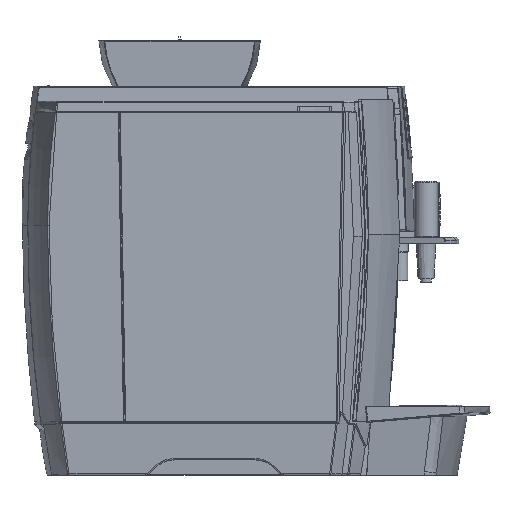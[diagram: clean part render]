
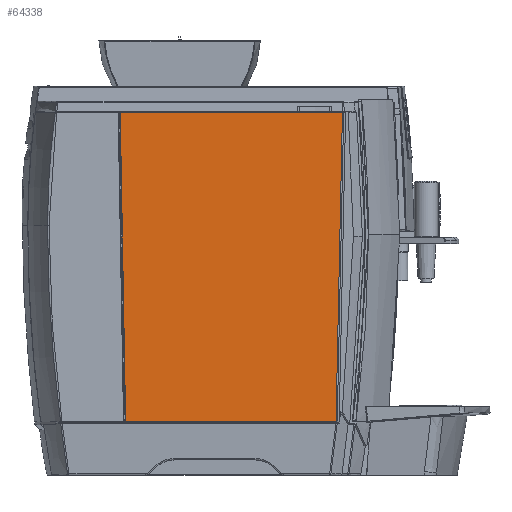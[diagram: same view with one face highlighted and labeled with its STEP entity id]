
A CAD part, left-side view. The second image highlights one B-rep face of the part: STEP entity #64338.
In plain terms, the highlighted planar face has unit normal (-1, 0, 0).
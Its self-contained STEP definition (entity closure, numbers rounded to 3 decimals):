
#66 = AXIS2_PLACEMENT_3D ( 'NONE', #41448, #47955, #8842 ) ;
#2243 = CARTESIAN_POINT ( 'NONE',  ( -155., 214.119, 22.991 ) ) ;
#3497 = CARTESIAN_POINT ( 'NONE',  ( -155., 92.508, 22.5 ) ) ;
#8098 = EDGE_CURVE ( 'NONE', #62985, #77572, #56051, .T. ) ;
#8842 = DIRECTION ( 'NONE',  ( 0., 1., 0. ) ) ;
#8974 = CARTESIAN_POINT ( 'NONE',  ( -155., 213.97, 22.643 ) ) ;
#9244 = VECTOR ( 'NONE', #58902, 1000. ) ;
#10810 = CARTESIAN_POINT ( 'NONE',  ( -155., 219.217, 315. ) ) ;
#13937 = VERTEX_POINT ( 'NONE', #2243 ) ;
#15571 = CARTESIAN_POINT ( 'NONE',  ( -155., 214.065, 22.736 ) ) ;
#15843 = CARTESIAN_POINT ( 'NONE',  ( -155., 214.119, 22.991 ) ) ;
#18109 = CARTESIAN_POINT ( 'NONE',  ( -155., 11.099, 217.567 ) ) ;
#18142 = B_SPLINE_CURVE_WITH_KNOTS ( 'NONE', 3,
 ( #21236, #40961, #73868, #34668, #80450, #41248 ),
 .UNSPECIFIED., .F., .F.,
 ( 4, 2, 4 ),
 ( 0., 0., 0.001 ),
 .UNSPECIFIED. ) ;
#19636 = ORIENTED_EDGE ( 'NONE', *, *, #26976, .T. ) ;
#20089 = EDGE_LOOP ( 'NONE', ( #84854, #19636, #42917, #31822, #37432, #43967, #79658 ) ) ;
#20501 = VERTEX_POINT ( 'NONE', #84857 ) ;
#21236 = CARTESIAN_POINT ( 'NONE',  ( -155., 15.924, 22.5 ) ) ;
#21621 = CARTESIAN_POINT ( 'NONE',  ( -155., 9.068, 315. ) ) ;
#24430 = CARTESIAN_POINT ( 'NONE',  ( -155., 15.161, 22.7 ) ) ;
#25368 = CARTESIAN_POINT ( 'NONE',  ( -155., 265.363, 315. ) ) ;
#26199 = EDGE_CURVE ( 'NONE', #35728, #69226, #39175, .T. ) ;
#26976 = EDGE_CURVE ( 'NONE', #79077, #20501, #18142, .T. ) ;
#27846 = CARTESIAN_POINT ( 'NONE',  ( -155., 15.924, 22.5 ) ) ;
#29769 = B_SPLINE_CURVE_WITH_KNOTS ( 'NONE', 3,
 ( #24430, #70145, #18109, #63865 ),
 .UNSPECIFIED., .F., .F.,
 ( 4, 4 ),
 ( 0., 0.293 ),
 .UNSPECIFIED. ) ;
#31822 = ORIENTED_EDGE ( 'NONE', *, *, #8098, .F. ) ;
#32002 = VECTOR ( 'NONE', #36083, 1000. ) ;
#34307 = PLANE ( 'NONE',  #66 ) ;
#34668 = CARTESIAN_POINT ( 'NONE',  ( -155., 15.402, 22.582 ) ) ;
#35728 = VERTEX_POINT ( 'NONE', #73965 ) ;
#36083 = DIRECTION ( 'NONE',  ( 0., 1., 0. ) ) ;
#36116 =( BOUNDED_CURVE ( )  B_SPLINE_CURVE ( 3, ( #8974, #15571, #54993, #15843 ),
 .UNSPECIFIED., .F., .T. ) 
 B_SPLINE_CURVE_WITH_KNOTS ( ( 4, 4 ),
 ( 0., 1. ),
 .UNSPECIFIED. ) 
 CURVE ( )  GEOMETRIC_REPRESENTATION_ITEM ( )  RATIONAL_B_SPLINE_CURVE ( ( 1., 0.95, 0.95, 1. ) ) 
 REPRESENTATION_ITEM ( '' )  );
#37432 = ORIENTED_EDGE ( 'NONE', *, *, #61155, .F. ) ;
#39175 =( BOUNDED_CURVE ( )  B_SPLINE_CURVE ( 3, ( #42640, #48889, #55801, #62418 ),
 .UNSPECIFIED., .F., .F. ) 
 B_SPLINE_CURVE_WITH_KNOTS ( ( 4, 4 ),
 ( 0., 1. ),
 .UNSPECIFIED. ) 
 CURVE ( )  GEOMETRIC_REPRESENTATION_ITEM ( )  RATIONAL_B_SPLINE_CURVE ( ( 1., 0.95, 0.95, 1. ) ) 
 REPRESENTATION_ITEM ( '' )  );
#39661 = CARTESIAN_POINT ( 'NONE',  ( -155., 213.97, 22.643 ) ) ;
#40961 = CARTESIAN_POINT ( 'NONE',  ( -155., 15.79, 22.5 ) ) ;
#41248 = CARTESIAN_POINT ( 'NONE',  ( -155., 15.161, 22.7 ) ) ;
#41448 = CARTESIAN_POINT ( 'NONE',  ( -155., 92.508, 116.109 ) ) ;
#41469 = EDGE_CURVE ( 'NONE', #79077, #35728, #62699, .T. ) ;
#42640 = CARTESIAN_POINT ( 'NONE',  ( -155., 213.62, 22.5 ) ) ;
#42917 = ORIENTED_EDGE ( 'NONE', *, *, #43691, .T. ) ;
#43691 = EDGE_CURVE ( 'NONE', #20501, #77572, #29769, .T. ) ;
#43967 = ORIENTED_EDGE ( 'NONE', *, *, #61898, .F. ) ;
#47955 = DIRECTION ( 'NONE',  ( 1., 0., 0. ) ) ;
#48889 = CARTESIAN_POINT ( 'NONE',  ( -155., 213.752, 22.5 ) ) ;
#52304 = CARTESIAN_POINT ( 'NONE',  ( -155., 214.119, 22.991 ) ) ;
#54993 = CARTESIAN_POINT ( 'NONE',  ( -155., 214.117, 22.858 ) ) ;
#55801 = CARTESIAN_POINT ( 'NONE',  ( -155., 213.875, 22.55 ) ) ;
#56051 = LINE ( 'NONE', #25368, #75513 ) ;
#58902 = DIRECTION ( 'NONE',  ( 0., 0.017, 1. ) ) ;
#61155 = EDGE_CURVE ( 'NONE', #13937, #62985, #63511, .T. ) ;
#61898 = EDGE_CURVE ( 'NONE', #69226, #13937, #36116, .T. ) ;
#62418 = CARTESIAN_POINT ( 'NONE',  ( -155., 213.97, 22.643 ) ) ;
#62699 = LINE ( 'NONE', #3497, #32002 ) ;
#62985 = VERTEX_POINT ( 'NONE', #10810 ) ;
#63511 = LINE ( 'NONE', #52304, #9244 ) ;
#63865 = CARTESIAN_POINT ( 'NONE',  ( -155., 9.068, 315. ) ) ;
#64338 = ADVANCED_FACE ( 'NONE', ( #68601 ), #34307, .F. ) ;
#68601 = FACE_OUTER_BOUND ( 'NONE', #20089, .T. ) ;
#69226 = VERTEX_POINT ( 'NONE', #39661 ) ;
#70145 = CARTESIAN_POINT ( 'NONE',  ( -155., 13.13, 120.134 ) ) ;
#71080 = DIRECTION ( 'NONE',  ( 0., -1., 0. ) ) ;
#73868 = CARTESIAN_POINT ( 'NONE',  ( -155., 15.659, 22.516 ) ) ;
#73965 = CARTESIAN_POINT ( 'NONE',  ( -155., 213.62, 22.5 ) ) ;
#75513 = VECTOR ( 'NONE', #71080, 1000. ) ;
#77572 = VERTEX_POINT ( 'NONE', #21621 ) ;
#79077 = VERTEX_POINT ( 'NONE', #27846 ) ;
#79658 = ORIENTED_EDGE ( 'NONE', *, *, #26199, .F. ) ;
#80450 = CARTESIAN_POINT ( 'NONE',  ( -155., 15.277, 22.632 ) ) ;
#84854 = ORIENTED_EDGE ( 'NONE', *, *, #41469, .F. ) ;
#84857 = CARTESIAN_POINT ( 'NONE',  ( -155., 15.161, 22.7 ) ) ;
